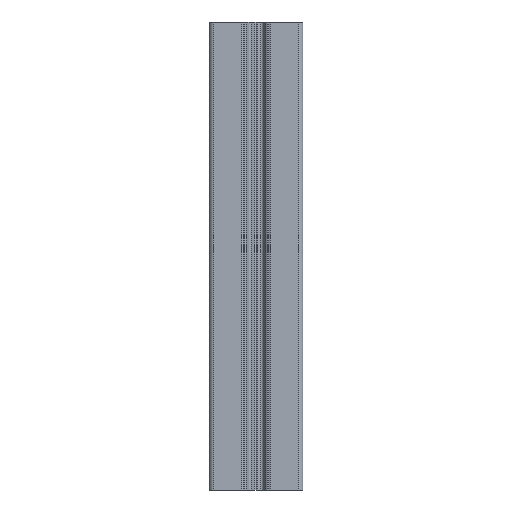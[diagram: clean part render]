
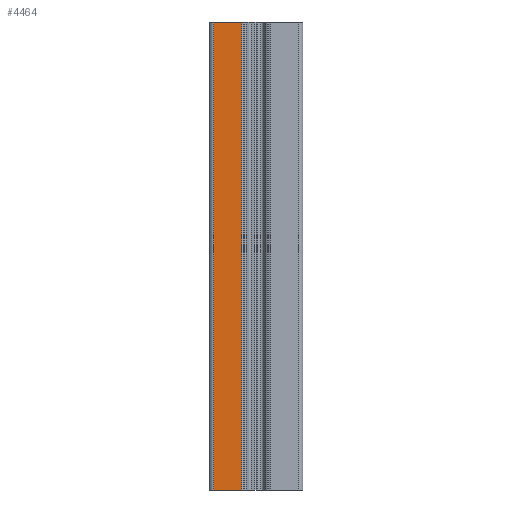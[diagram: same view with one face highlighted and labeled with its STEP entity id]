
A CAD part, left-side view. The second image highlights one B-rep face of the part: STEP entity #4464.
In plain terms, the highlighted planar face has unit normal (-1, 0, 0).
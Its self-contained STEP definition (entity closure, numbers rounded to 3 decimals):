
#4406=CARTESIAN_POINT('',(-20.0,6.,0.));
#4407=VERTEX_POINT('',#4406);
#4415=CARTESIAN_POINT('',(-20.0,6.,-200.0));
#4416=VERTEX_POINT('',#4415);
#4417=CARTESIAN_POINT('',(-20.0,6.,-200.0));
#4418=DIRECTION('',(0.0,0.0,1.0));
#4419=VECTOR('',#4418,200.);
#4420=LINE('',#4417,#4419);
#4421=EDGE_CURVE('',#4416,#4407,#4420,.T.);
#4434=CARTESIAN_POINT('',(-20.0,6.,-200.0));
#4435=DIRECTION('',(-1.0,0.0,0.0));
#4436=DIRECTION('',(0.0,0.0,1.0));
#4437=AXIS2_PLACEMENT_3D('',#4434,#4435,#4436);
#4438=PLANE('',#4437);
#4439=CARTESIAN_POINT('',(-20.0,18.,0.));
#4440=VERTEX_POINT('',#4439);
#4441=CARTESIAN_POINT('',(-20.0,6.,0.0));
#4442=DIRECTION('',(0.0,1.0,0.0));
#4443=VECTOR('',#4442,12.);
#4444=LINE('',#4441,#4443);
#4445=EDGE_CURVE('',#4407,#4440,#4444,.T.);
#4446=ORIENTED_EDGE('',*,*,#4445,.T.);
#4447=CARTESIAN_POINT('',(-20.0,18.,-200.0));
#4448=VERTEX_POINT('',#4447);
#4449=CARTESIAN_POINT('',(-20.0,18.,-200.0));
#4450=DIRECTION('',(0.0,0.0,1.0));
#4451=VECTOR('',#4450,200.);
#4452=LINE('',#4449,#4451);
#4453=EDGE_CURVE('',#4448,#4440,#4452,.T.);
#4454=ORIENTED_EDGE('',*,*,#4453,.F.);
#4455=CARTESIAN_POINT('',(-20.0,18.,-200.0));
#4456=DIRECTION('',(0.0,-1.0,0.0));
#4457=VECTOR('',#4456,12.);
#4458=LINE('',#4455,#4457);
#4459=EDGE_CURVE('',#4448,#4416,#4458,.T.);
#4460=ORIENTED_EDGE('',*,*,#4459,.T.);
#4461=ORIENTED_EDGE('',*,*,#4421,.T.);
#4462=EDGE_LOOP('',(#4446,#4454,#4460,#4461));
#4463=FACE_OUTER_BOUND('',#4462,.T.);
#4464=ADVANCED_FACE('',(#4463),#4438,.T.);
